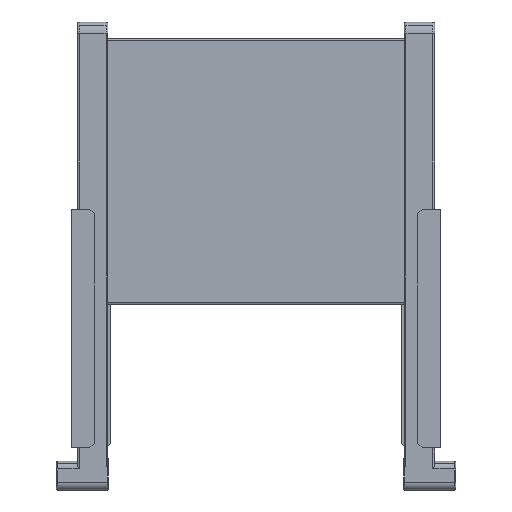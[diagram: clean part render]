
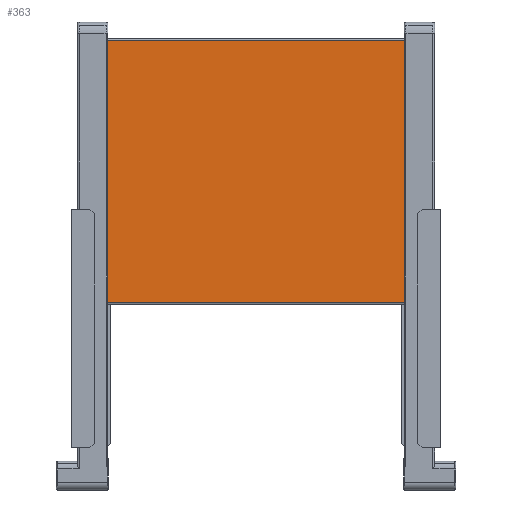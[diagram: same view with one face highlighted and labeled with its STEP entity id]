
A CAD part, front view. The second image highlights one B-rep face of the part: STEP entity #363.
In plain terms, the highlighted planar face has unit normal (0, -1, 0).
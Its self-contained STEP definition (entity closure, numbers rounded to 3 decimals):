
#363=ADVANCED_FACE('',(#901,#902,#903,#904),#905,.T.);
#901=FACE_OUTER_BOUND('',#1627,.T.);
#902=FACE_BOUND('',#1628,.T.);
#903=FACE_BOUND('',#1629,.T.);
#904=FACE_BOUND('',#1630,.T.);
#905=PLANE('',#1631);
#1627=EDGE_LOOP('',(#3040,#3041,#3042,#3043));
#1628=EDGE_LOOP('',(#3044,#3045,#3046,#3047,#3048,#3049));
#1629=EDGE_LOOP('',(#3050,#3051,#3052,#3053,#3054,#3055));
#1630=EDGE_LOOP('',(#3056,#3057,#3058,#3059,#3060,#3061,#3062));
#1631=AXIS2_PLACEMENT_3D('',#3063,#3064,#3065);
#3040=ORIENTED_EDGE('',*,*,#4934,.F.);
#3041=ORIENTED_EDGE('',*,*,#5028,.F.);
#3042=ORIENTED_EDGE('',*,*,#5029,.F.);
#3043=ORIENTED_EDGE('',*,*,#5030,.F.);
#3044=ORIENTED_EDGE('',*,*,#5031,.F.);
#3045=ORIENTED_EDGE('',*,*,#5032,.F.);
#3046=ORIENTED_EDGE('',*,*,#5033,.F.);
#3047=ORIENTED_EDGE('',*,*,#5034,.T.);
#3048=ORIENTED_EDGE('',*,*,#5035,.T.);
#3049=ORIENTED_EDGE('',*,*,#5036,.T.);
#3050=ORIENTED_EDGE('',*,*,#5037,.F.);
#3051=ORIENTED_EDGE('',*,*,#5038,.F.);
#3052=ORIENTED_EDGE('',*,*,#5039,.F.);
#3053=ORIENTED_EDGE('',*,*,#5040,.T.);
#3054=ORIENTED_EDGE('',*,*,#5041,.T.);
#3055=ORIENTED_EDGE('',*,*,#5042,.T.);
#3056=ORIENTED_EDGE('',*,*,#5043,.F.);
#3057=ORIENTED_EDGE('',*,*,#5044,.F.);
#3058=ORIENTED_EDGE('',*,*,#5045,.F.);
#3059=ORIENTED_EDGE('',*,*,#5046,.F.);
#3060=ORIENTED_EDGE('',*,*,#5047,.F.);
#3061=ORIENTED_EDGE('',*,*,#5048,.F.);
#3062=ORIENTED_EDGE('',*,*,#5049,.F.);
#3063=CARTESIAN_POINT('',(0.,-40.7,0.));
#3064=DIRECTION('',(0.,-1.0,0.));
#3065=DIRECTION('',(0.,0.,1.0));
#4934=EDGE_CURVE('',#5904,#5906,#5907,.T.);
#5028=EDGE_CURVE('',#6066,#5904,#6067,.T.);
#5029=EDGE_CURVE('',#6068,#6066,#6069,.T.);
#5030=EDGE_CURVE('',#5906,#6068,#6070,.T.);
#5031=EDGE_CURVE('',#6071,#6072,#6073,.T.);
#5032=EDGE_CURVE('',#6074,#6071,#6075,.T.);
#5033=EDGE_CURVE('',#6076,#6074,#6077,.T.);
#5034=EDGE_CURVE('',#6076,#6078,#6079,.T.);
#5035=EDGE_CURVE('',#6078,#6080,#6081,.T.);
#5036=EDGE_CURVE('',#6080,#6072,#6082,.T.);
#5037=EDGE_CURVE('',#6083,#6084,#6085,.T.);
#5038=EDGE_CURVE('',#6086,#6083,#6087,.T.);
#5039=EDGE_CURVE('',#6088,#6086,#6089,.T.);
#5040=EDGE_CURVE('',#6088,#6090,#6091,.T.);
#5041=EDGE_CURVE('',#6090,#6092,#6093,.T.);
#5042=EDGE_CURVE('',#6092,#6084,#6094,.T.);
#5043=EDGE_CURVE('',#6095,#6096,#6097,.T.);
#5044=EDGE_CURVE('',#6098,#6095,#6099,.T.);
#5045=EDGE_CURVE('',#6100,#6098,#6101,.T.);
#5046=EDGE_CURVE('',#6102,#6100,#6103,.T.);
#5047=EDGE_CURVE('',#6104,#6102,#6105,.T.);
#5048=EDGE_CURVE('',#6106,#6104,#6107,.T.);
#5049=EDGE_CURVE('',#6096,#6106,#6108,.T.);
#5904=VERTEX_POINT('',#7306);
#5906=VERTEX_POINT('',#7308);
#5907=LINE('',#7309,#7310);
#6066=VERTEX_POINT('',#7516);
#6067=LINE('',#7517,#7518);
#6068=VERTEX_POINT('',#7519);
#6069=LINE('',#7520,#7521);
#6070=LINE('',#7522,#7523);
#6071=VERTEX_POINT('',#7524);
#6072=VERTEX_POINT('',#7525);
#6073=CIRCLE('',#7526,0.003);
#6074=VERTEX_POINT('',#7527);
#6075=LINE('',#7528,#7529);
#6076=VERTEX_POINT('',#7530);
#6077=CIRCLE('',#7531,0.003);
#6078=VERTEX_POINT('',#7532);
#6079=CIRCLE('',#7533,0.003);
#6080=VERTEX_POINT('',#7534);
#6081=LINE('',#7535,#7536);
#6082=CIRCLE('',#7537,0.003);
#6083=VERTEX_POINT('',#7538);
#6084=VERTEX_POINT('',#7539);
#6085=CIRCLE('',#7540,0.003);
#6086=VERTEX_POINT('',#7541);
#6087=LINE('',#7542,#7543);
#6088=VERTEX_POINT('',#7544);
#6089=CIRCLE('',#7545,0.003);
#6090=VERTEX_POINT('',#7546);
#6091=CIRCLE('',#7547,0.003);
#6092=VERTEX_POINT('',#7548);
#6093=LINE('',#7549,#7550);
#6094=CIRCLE('',#7551,0.003);
#6095=VERTEX_POINT('',#7552);
#6096=VERTEX_POINT('',#7553);
#6097=CIRCLE('',#7554,0.002);
#6098=VERTEX_POINT('',#7555);
#6099=CIRCLE('',#7556,0.002);
#6100=VERTEX_POINT('',#7557);
#6101=LINE('',#7558,#7559);
#6102=VERTEX_POINT('',#7560);
#6103=LINE('',#7561,#7562);
#6104=VERTEX_POINT('',#7563);
#6105=LINE('',#7564,#7565);
#6106=VERTEX_POINT('',#7566);
#6107=LINE('',#7567,#7568);
#6108=LINE('',#7569,#7570);
#7306=CARTESIAN_POINT('',(-155.0,-40.7,277.0));
#7308=CARTESIAN_POINT('',(155.0,-40.7,277.0));
#7309=CARTESIAN_POINT('',(0.,-40.7,277.0));
#7310=VECTOR('',#8858,10.0);
#7516=CARTESIAN_POINT('',(-155.0,-40.7,2.));
#7517=CARTESIAN_POINT('',(-155.0,-40.7,-80.657));
#7518=VECTOR('',#9006,10.0);
#7519=CARTESIAN_POINT('',(155.0,-40.7,2.));
#7520=CARTESIAN_POINT('',(0.,-40.7,2.0));
#7521=VECTOR('',#9007,10.0);
#7522=CARTESIAN_POINT('',(155.0,-40.7,148.0));
#7523=VECTOR('',#9008,10.0);
#7524=CARTESIAN_POINT('',(-0.004,-40.7,2.006));
#7525=CARTESIAN_POINT('',(-0.007,-40.7,2.008));
#7526=AXIS2_PLACEMENT_3D('',#9009,#9010,#9011);
#7527=CARTESIAN_POINT('',(-0.004,-40.7,2.003));
#7528=CARTESIAN_POINT('',(-0.004,-40.7,2.003));
#7529=VECTOR('',#9012,1.0);
#7530=CARTESIAN_POINT('',(-0.007,-40.7,2.));
#7531=AXIS2_PLACEMENT_3D('',#9013,#9014,#9015);
#7532=CARTESIAN_POINT('',(-0.01,-40.7,2.003));
#7533=AXIS2_PLACEMENT_3D('',#9016,#9017,#9018);
#7534=CARTESIAN_POINT('',(-0.01,-40.7,2.006));
#7535=CARTESIAN_POINT('',(-0.01,-40.7,2.003));
#7536=VECTOR('',#9019,1.0);
#7537=AXIS2_PLACEMENT_3D('',#9020,#9021,#9022);
#7538=CARTESIAN_POINT('',(0.01,-40.7,2.006));
#7539=CARTESIAN_POINT('',(0.007,-40.7,2.008));
#7540=AXIS2_PLACEMENT_3D('',#9023,#9024,#9025);
#7541=CARTESIAN_POINT('',(0.01,-40.7,2.003));
#7542=CARTESIAN_POINT('',(0.01,-40.7,2.003));
#7543=VECTOR('',#9026,1.0);
#7544=CARTESIAN_POINT('',(0.007,-40.7,2.));
#7545=AXIS2_PLACEMENT_3D('',#9027,#9028,#9029);
#7546=CARTESIAN_POINT('',(0.004,-40.7,2.003));
#7547=AXIS2_PLACEMENT_3D('',#9030,#9031,#9032);
#7548=CARTESIAN_POINT('',(0.004,-40.7,2.006));
#7549=CARTESIAN_POINT('',(0.004,-40.7,2.003));
#7550=VECTOR('',#9033,1.0);
#7551=AXIS2_PLACEMENT_3D('',#9034,#9035,#9036);
#7552=CARTESIAN_POINT('',(0.003,-40.7,2.006));
#7553=CARTESIAN_POINT('',(0.001,-40.7,2.008));
#7554=AXIS2_PLACEMENT_3D('',#9037,#9038,#9039);
#7555=CARTESIAN_POINT('',(0.001,-40.7,2.003));
#7556=AXIS2_PLACEMENT_3D('',#9040,#9041,#9042);
#7557=CARTESIAN_POINT('',(-0.001,-40.7,2.003));
#7558=CARTESIAN_POINT('',(-0.001,-40.7,2.003));
#7559=VECTOR('',#9043,1.0);
#7560=CARTESIAN_POINT('',(-0.001,-40.7,2.));
#7561=CARTESIAN_POINT('',(-0.001,-40.7,2.));
#7562=VECTOR('',#9044,1.0);
#7563=CARTESIAN_POINT('',(-0.003,-40.7,2.));
#7564=CARTESIAN_POINT('',(-0.003,-40.7,2.));
#7565=VECTOR('',#9045,1.0);
#7566=CARTESIAN_POINT('',(-0.003,-40.7,2.008));
#7567=CARTESIAN_POINT('',(-0.003,-40.7,2.006));
#7568=VECTOR('',#9046,1.0);
#7569=CARTESIAN_POINT('',(0.001,-40.7,2.008));
#7570=VECTOR('',#9047,1.0);
#8858=DIRECTION('',(1.0,0.,0.0));
#9006=DIRECTION('',(0.,0.,1.0));
#9007=DIRECTION('',(-1.0,0.,0.0));
#9008=DIRECTION('',(0.,0.,-1.0));
#9009=CARTESIAN_POINT('',(-0.006,-40.7,2.006));
#9010=DIRECTION('',(0.0,-1.0,0.));
#9011=DIRECTION('',(1.0,0.,0.));
#9012=DIRECTION('',(0.0,0.,1.0));
#9013=CARTESIAN_POINT('',(-0.006,-40.7,2.003));
#9014=DIRECTION('',(0.,-1.0,0.));
#9015=DIRECTION('',(0.,0.,-1.0));
#9016=CARTESIAN_POINT('',(-0.007,-40.7,2.003));
#9017=DIRECTION('',(0.,1.0,0.));
#9018=DIRECTION('',(0.,0.,-1.0));
#9019=DIRECTION('',(0.0,0.,1.0));
#9020=CARTESIAN_POINT('',(-0.007,-40.7,2.006));
#9021=DIRECTION('',(0.0,1.0,0.));
#9022=DIRECTION('',(-1.0,0.,0.));
#9023=CARTESIAN_POINT('',(0.007,-40.7,2.006));
#9024=DIRECTION('',(0.0,-1.0,0.));
#9025=DIRECTION('',(1.0,0.,0.));
#9026=DIRECTION('',(0.0,0.,1.0));
#9027=CARTESIAN_POINT('',(0.007,-40.7,2.003));
#9028=DIRECTION('',(0.,-1.0,0.));
#9029=DIRECTION('',(0.,0.,-1.0));
#9030=CARTESIAN_POINT('',(0.007,-40.7,2.003));
#9031=DIRECTION('',(0.,1.0,0.));
#9032=DIRECTION('',(0.,0.,-1.0));
#9033=DIRECTION('',(0.0,0.,1.0));
#9034=CARTESIAN_POINT('',(0.007,-40.7,2.006));
#9035=DIRECTION('',(0.0,1.0,0.));
#9036=DIRECTION('',(-1.0,0.,0.));
#9037=CARTESIAN_POINT('',(0.001,-40.7,2.006));
#9038=DIRECTION('',(0.0,-1.0,0.));
#9039=DIRECTION('',(1.0,0.0,0.0));
#9040=CARTESIAN_POINT('',(0.001,-40.7,2.005));
#9041=DIRECTION('',(0.,-1.0,0.));
#9042=DIRECTION('',(0.,0.,-1.0));
#9043=DIRECTION('',(1.0,0.0,0.0));
#9044=DIRECTION('',(0.0,0.,1.0));
#9045=DIRECTION('',(1.0,0.,0.));
#9046=DIRECTION('',(0.0,0.,-1.0));
#9047=DIRECTION('',(-1.0,-0.0,0.0));
